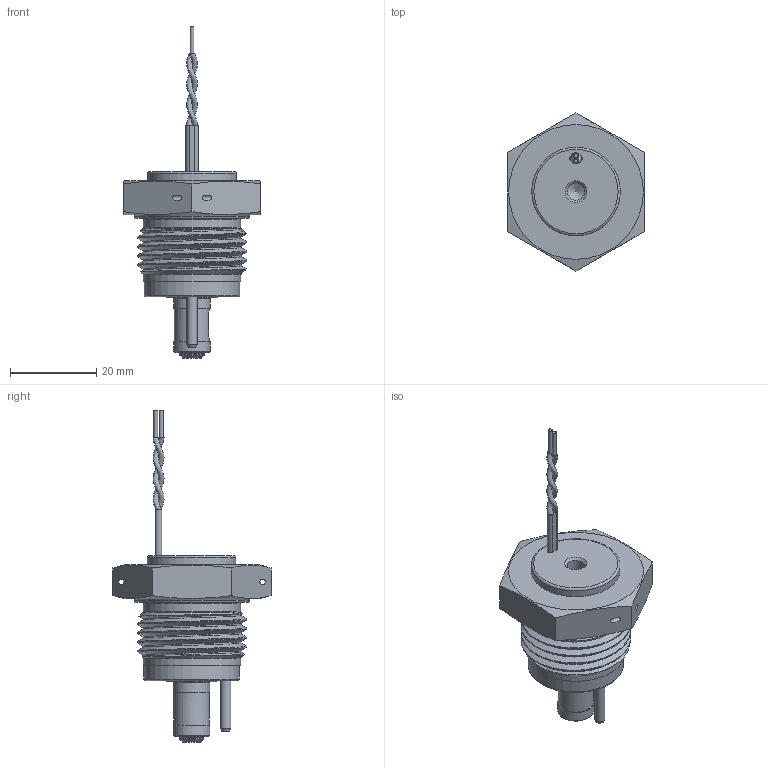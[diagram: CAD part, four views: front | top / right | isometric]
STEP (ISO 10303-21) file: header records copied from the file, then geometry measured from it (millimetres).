
FILE_DESCRIPTION (( 'STEP AP203' ), '1' );
FILE_NAME ('MODEL-SDLD0502100.STEP', '2025-12-31T12:02:03', ( '' ), ( '' ), 'SwSTEP 2.0', 'SolidWorks 2025', '' );
FILE_SCHEMA (( 'CONFIG_CONTROL_DESIGN' ));
Length unit declared in the file: inch
Products named in the file (1): MODEL-SDLD0502100
Bounding box: 31.75 x 36.66 x 76.98 mm (x, y, z)
Volume: 16462.7 mm3; surface area: 5494.2 mm2
Topology: 1 solids, 1 shells, 89 faces, 196 edges, 124 vertices
Faces by surface type: cylinder 29, plane 28, cone 17, torus 10, bspline 5
Full cylindrical faces by diameter (mm): 0.889 x2, 1.27 x4, 2.057 x1, 2.383 x1, 4.016 x1, 5.182 x1, 5.664 x1, 7.518 x1, 8.204 x1, 8.407 x2, 11.64 x1, 20.574 x1, 22.121 x1, 22.606 x2, 26.543 x1
Entity records: 4414 total; most frequent: CARTESIAN_POINT 2747, DIRECTION 324, ORIENTED_EDGE 254, EDGE_LOOP 155, AXIS2_PLACEMENT_3D 149, EDGE_CURVE 127, FACE_OUTER_BOUND 121, VERTEX_POINT 104
